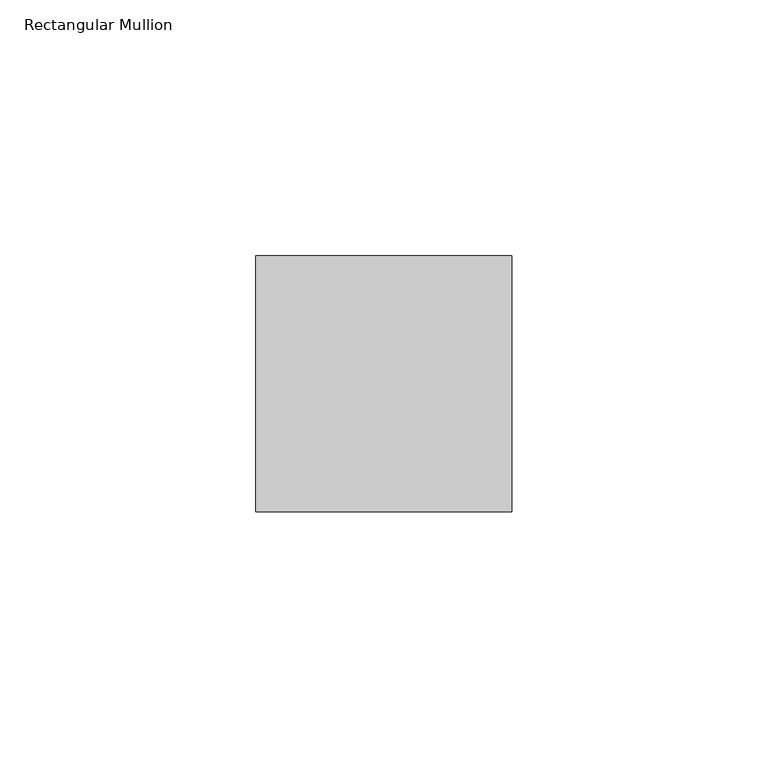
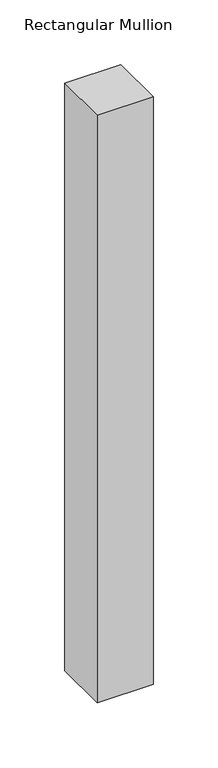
"""IFC4 building model written with IfcOpenShell, lengths in millimetres: member geometry, Rectangular Mullion : RSen_21_CWM_support profile 50x50_gen_duco projects."""

from ifc_helpers import new_model, si_unit, frame, origin, place, context, project, spatial, polyline, outline, extrude, source, transform, mapped, element, save


def rectangular_mullion_fcffcf6d(model_context):
    return source(origin(), model_context, "Body", "SweptSolid", [
        extrude(outline(polyline([(25.0, 1.0), (25.0, -49.0), (-25.0, -49.0), (-25.0, 1.0), (25.0, 1.0)])), frame((0.0, 0.0, -555.0), z_axis=(0.0, 0.0, 1.0), x_axis=(1.0, 0.0, 0.0)), (0.0, 0.0, 1.0), 555.0),
    ])


if __name__ == "__main__":
    model = new_model("IFC4")
    model_context = context("Model", 3, world=origin())
    ifc_project = project(units=[si_unit("LENGTHUNIT", "METRE", prefix="MILLI")], contexts=[model_context])
    site = spatial("IfcSite", under=ifc_project)
    building = spatial("IfcBuilding", under=site)
    placement = place(None, origin())
    rectangular_mullion_shape = rectangular_mullion_fcffcf6d(model_context)
    element("IfcMember", 1, ObjectType="Rectangular Mullion : RSen_21_CWM_support profile 50x50_gen_duco projects", at=placement, inside=building, context=model_context, shape_type="MappedRepresentation", body=[
        mapped(rectangular_mullion_shape, transform((0.0, 0.0, 0.0), x_axis=(1.0, 0.0, 0.0), y_axis=(0.0, 1.0, 0.0), z_axis=(0.0, 0.0, 1.0))),
    ])
    save(model, "model.ifc")
